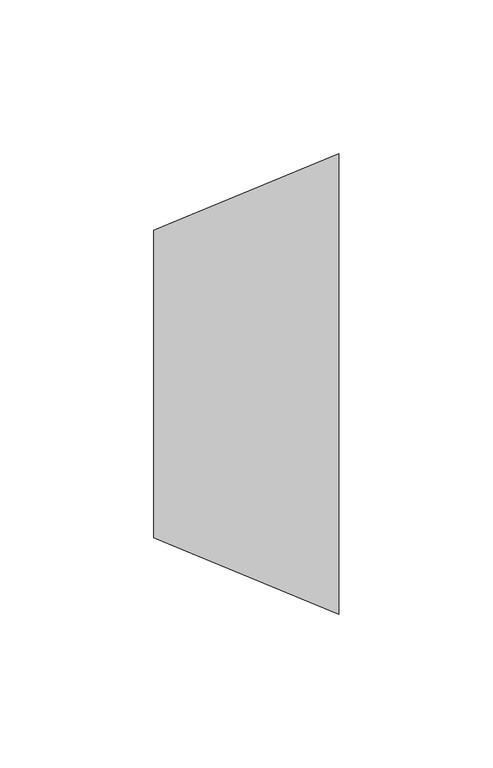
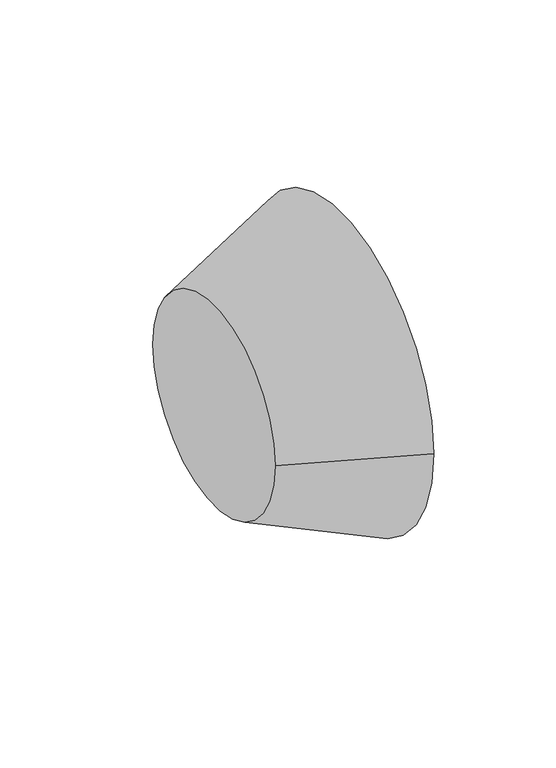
"""IFC4 building model written with IfcOpenShell, lengths in millimetres: duct fitting geometry, M_Transición redonda - Ángulo : EXT_45 graus."""

from ifc_helpers import new_model, si_unit, frame, origin, place, context, project, spatial, polyline, circle_curve, source, transform, mapped, element, save
from ifc_brep_helpers import plane_surface, revolved_surface, advanced_brep


def duct_fitting_dce10068(model_context):
    return source(origin(), model_context, "Body", "AdvancedBrep", [
        advanced_brep(
        [(60.3553391, 75.0, 0.0), (60.3553391, -75.0, 0.0), (0.0, 50.0, 0.0), (0.0, -50.0, 0.0)],
        [
            (0, 1, circle_curve(frame((60.3553391, 0.0, 0.0), z_axis=(1.0, 0.0, 0.0), x_axis=(0.0, -1.0, 0.0)), 75.0)),
            (1, 0, circle_curve(frame((60.3553391, 0.0, 0.0), z_axis=(1.0, 0.0, 0.0), x_axis=(0.0, 1.0, 0.0)), 75.0)),
            (2, 3, circle_curve(frame((0.0, 0.0, 0.0), z_axis=(-1.0, 0.0, 0.0), x_axis=(0.0, 1.0, 0.0)), 50.0)),
            (3, 2, circle_curve(frame((0.0, 0.0, 0.0), z_axis=(-1.0, 0.0, 0.0), x_axis=(0.0, -1.0, 0.0)), 50.0)),
            (2, 0),
            (1, 3),
        ],
        [
            plane_surface(frame((60.3553391, 0.0, 0.0), z_axis=(1.0, 0.0, 0.0), x_axis=(0.0, 0.0, -1.0))),
            plane_surface(frame((0.0, 0.0, 0.0), z_axis=(-1.0, 0.0, 0.0), x_axis=(0.0, 0.0, -1.0))),
            revolved_surface(polyline([(-1.4210854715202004e-14, 49.999999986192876, 0.0), (60.35533910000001, 75.0, 0.0)]), (-120.7106781, 0.0, 0.0), (1.0, 0.0, 0.0)),
            revolved_surface(polyline([(-1.4210854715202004e-14, -49.999999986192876, 0.0), (60.35533910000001, -75.0, 0.0)]), (-120.7106781, 0.0, 0.0), (1.0, 0.0, 0.0)),
        ],
        [
            (0, [[1, 2]]),
            (1, [[3, 4]]),
            (2, [[5, -2, 6, -3]]),
            (3, [[-6, -1, -5, -4]]),
        ],
    ),
    ])


if __name__ == "__main__":
    model = new_model("IFC4")
    model_context = context("Model", 3, world=origin())
    ifc_project = project(units=[si_unit("LENGTHUNIT", "METRE", prefix="MILLI")], contexts=[model_context])
    site = spatial("IfcSite", under=ifc_project)
    building = spatial("IfcBuilding", under=site)
    placement = place(None, origin())
    duct_fitting_shape = duct_fitting_dce10068(model_context)
    element("IfcDuctFitting", 1, ObjectType="M_Transición redonda - Ángulo : EXT_45 graus", at=placement, inside=building, context=model_context, shape_type="MappedRepresentation", body=[
        mapped(duct_fitting_shape, transform((0.0, 0.0, 0.0), x_axis=(1.0, 0.0, 0.0), y_axis=(0.0, 1.0, 0.0), z_axis=(0.0, 0.0, 1.0))),
    ])
    save(model, "model.ifc")
